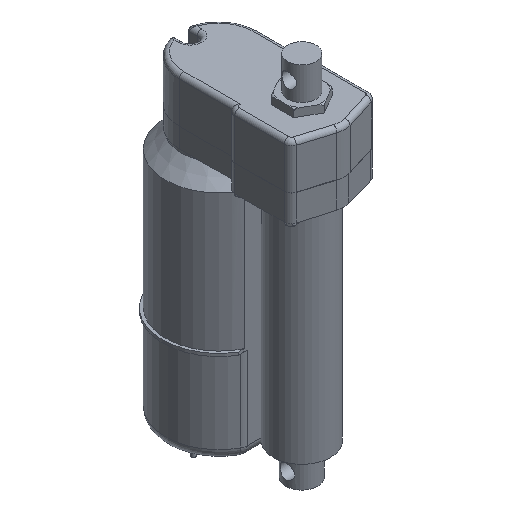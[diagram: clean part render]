
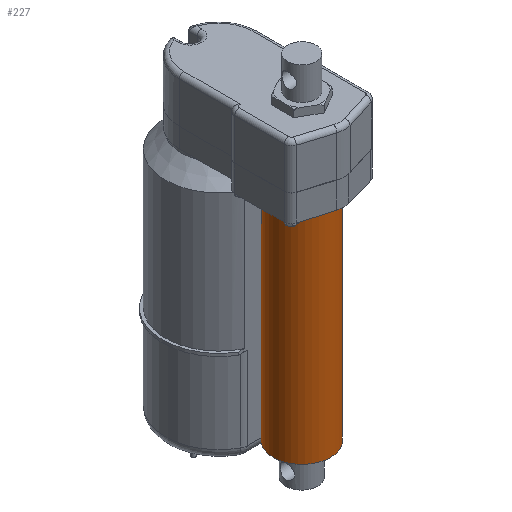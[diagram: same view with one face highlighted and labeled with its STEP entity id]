
A CAD part, isometric view. The second image highlights one B-rep face of the part: STEP entity #227.
In plain terms, the highlighted cylindrical face has radius 25.65 mm (diameter 51.3 mm), a full revolution.
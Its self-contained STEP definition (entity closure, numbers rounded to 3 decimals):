
#227 = ADVANCED_FACE ( 'NONE', ( #5688, #5692 ), #5689, .T. ) ;
#388 = CARTESIAN_POINT ( 'NONE',  ( 0., 0., -72.549 ) ) ;
#390 = DIRECTION ( 'NONE',  ( 1., 0., 0. ) ) ;
#391 = DIRECTION ( 'NONE',  ( 0., 0., 1. ) ) ;
#1958 = CARTESIAN_POINT ( 'NONE',  ( 0., 0., 0. ) ) ;
#1972 = DIRECTION ( 'NONE',  ( 0., 0., -1. ) ) ;
#1974 = DIRECTION ( 'NONE',  ( 1., 0., 0. ) ) ;
#2149 = CARTESIAN_POINT ( 'NONE',  ( 0., 0., 199.7 ) ) ;
#2151 = DIRECTION ( 'NONE',  ( 0., 0., 1. ) ) ;
#2152 = DIRECTION ( 'NONE',  ( 1., 0., 0. ) ) ;
#2868 = VERTEX_POINT ( 'NONE', #2869 ) ;
#2869 = CARTESIAN_POINT ( 'NONE',  ( 25.65, 0., 0. ) ) ;
#2880 = VERTEX_POINT ( 'NONE', #2881 ) ;
#2881 = CARTESIAN_POINT ( 'NONE',  ( 25.65, 0., 199.7 ) ) ;
#3527 = CIRCLE ( 'NONE', #3635, 25.65 ) ;
#3635 = AXIS2_PLACEMENT_3D ( 'NONE', #1958, #1972, #1974 ) ;
#3653 = AXIS2_PLACEMENT_3D ( 'NONE', #2149, #2151, #2152 ) ;
#3926 = AXIS2_PLACEMENT_3D ( 'NONE', #388, #391, #390 ) ;
#4377 = EDGE_LOOP ( 'NONE', ( #4628 ) ) ;
#4380 = EDGE_LOOP ( 'NONE', ( #4634 ) ) ;
#4628 = ORIENTED_EDGE ( 'NONE', *, *, #5514, .F. ) ;
#4634 = ORIENTED_EDGE ( 'NONE', *, *, #5564, .F. ) ;
#5262 = CIRCLE ( 'NONE', #3653, 25.65 ) ;
#5514 = EDGE_CURVE ( 'NONE', #2868, #2868, #3527, .T. ) ;
#5564 = EDGE_CURVE ( 'NONE', #2880, #2880, #5262, .T. ) ;
#5688 = FACE_OUTER_BOUND ( 'NONE', #4377, .T. ) ;
#5689 = CYLINDRICAL_SURFACE ( 'NONE', #3926, 25.65 ) ;
#5692 = FACE_OUTER_BOUND ( 'NONE', #4380, .T. ) ;
